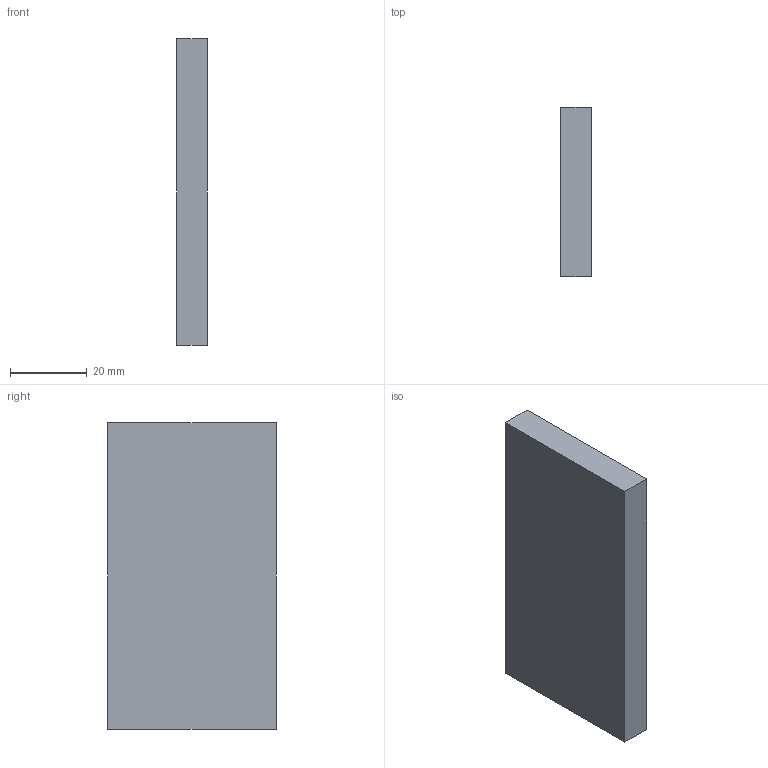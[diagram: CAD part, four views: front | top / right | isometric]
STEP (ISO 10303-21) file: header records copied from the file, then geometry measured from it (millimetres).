
FILE_DESCRIPTION(('FreeCAD Model'),'2;1');
FILE_NAME('Open CASCADE Shape Model','2026-11-09T00:40:30',('FreeCAD'),( 'FreeCAD'),'Open CASCADE STEP processor 7.8','FreeCAD','Unknown');
FILE_SCHEMA(('AUTOMOTIVE_DESIGN { 1 0 10303 214 1 1 1 1 }'));
Length unit declared in the file: millimetre
Products named in the file (1): Open CASCADE STEP translator 7.8 10
Bounding box: 8 x 44 x 80 mm (x, y, z)
Volume: 28160 mm3; surface area: 9024 mm2
Topology: 1 solids, 1 shells, 6 faces, 12 edges, 8 vertices
Faces by surface type: plane 6
Entity records: 166 total; most frequent: CARTESIAN_POINT 27, DIRECTION 26, ORIENTED_EDGE 24, EDGE_CURVE 12, LINE 12, VECTOR 12, VERTEX_POINT 8, AXIS2_PLACEMENT_3D 7
